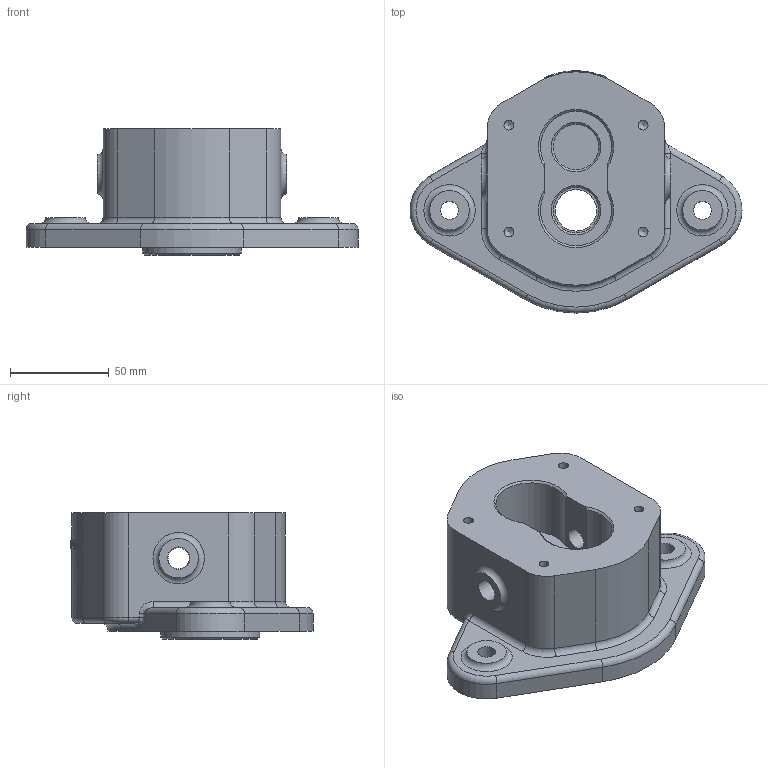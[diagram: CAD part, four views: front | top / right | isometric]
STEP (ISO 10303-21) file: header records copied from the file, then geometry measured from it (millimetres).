
FILE_DESCRIPTION(/* description */ (''),/* implementation_level */ '2;1');
FILE_NAME(/* name */ '',/* time_stamp */ '2026-08-26T18:22:10+09:00',/* author */ ('jhkim'),/* organization */ (''),/* preprocessor_version */ 'ST-DEVELOPER v20.1',/* originating_system */ 'Autodesk Inventor 2027',/* authorisation */ '');
FILE_SCHEMA (('AUTOMOTIVE_DESIGN { 1 0 10303 214 3 1 1 }'));
Length unit declared in the file: millimetre
Products named in the file (1): 본체
Bounding box: 168 x 122.5 x 64 mm (x, y, z)
Volume: 463643.4 mm3; surface area: 58825.9 mm2
Topology: 1 solids, 1 shells, 292 faces, 754 edges, 492 vertices
Faces by surface type: plane 118, bspline 89, cylinder 58, torus 15, cone 12
Full cylindrical faces by diameter (mm): 4.917 x4, 9 x2, 10.719 x2, 21 x1, 23 x2, 30 x1, 50 x1
Entity records: 10220 total; most frequent: CARTESIAN_POINT 3444, ORIENTED_EDGE 1500, DIRECTION 1209, EDGE_CURVE 750, VERTEX_POINT 492, AXIS2_PLACEMENT_3D 429, LINE 351, VECTOR 351
